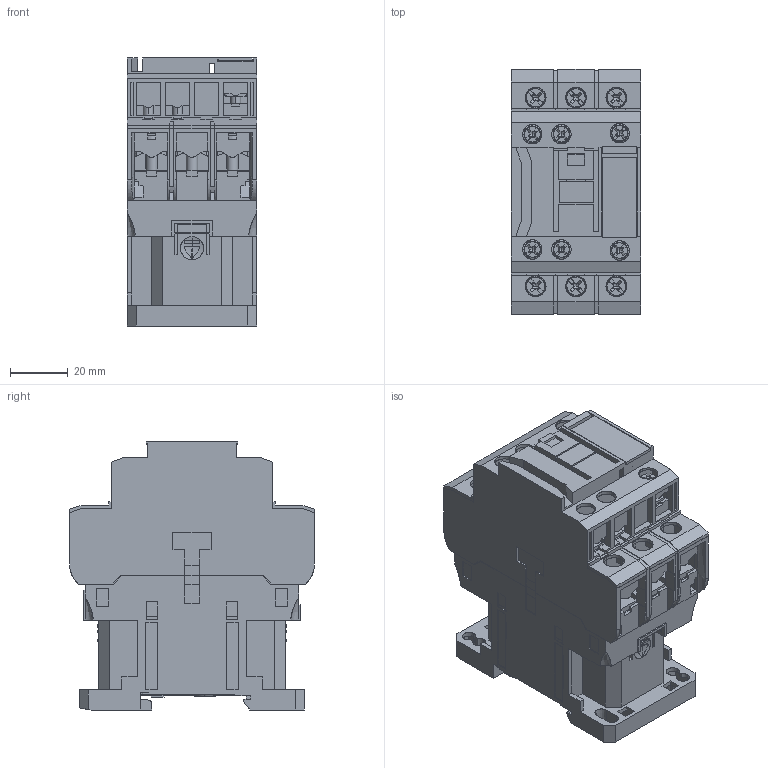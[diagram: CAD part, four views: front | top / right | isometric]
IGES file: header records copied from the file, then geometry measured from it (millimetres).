
Start section: SolidWorks IGES file using analytic representation for surfaces
Global section: file name: Q:\GROUPS\BR_SC_JGS_WA_TECNICO\ENG\Usuarios\Rodrigob\conversão\contatores\Produto\CWB25...38\CWB25...38.IGS; native system: SolidWorks 2012; preprocessor: SolidWorks 2012; author: rodrigob; date: 140430.152524; units: millimetre
Bounding box: 44.8 x 85 x 93 mm (x, y, z)
Surface area: 74420.5 mm2 (no closed solid volume)
Topology: 0 solids, 0 shells, 2540 faces, 21238 edges, 21210 vertices
Faces by surface type: bspline 1969, revolution 571
